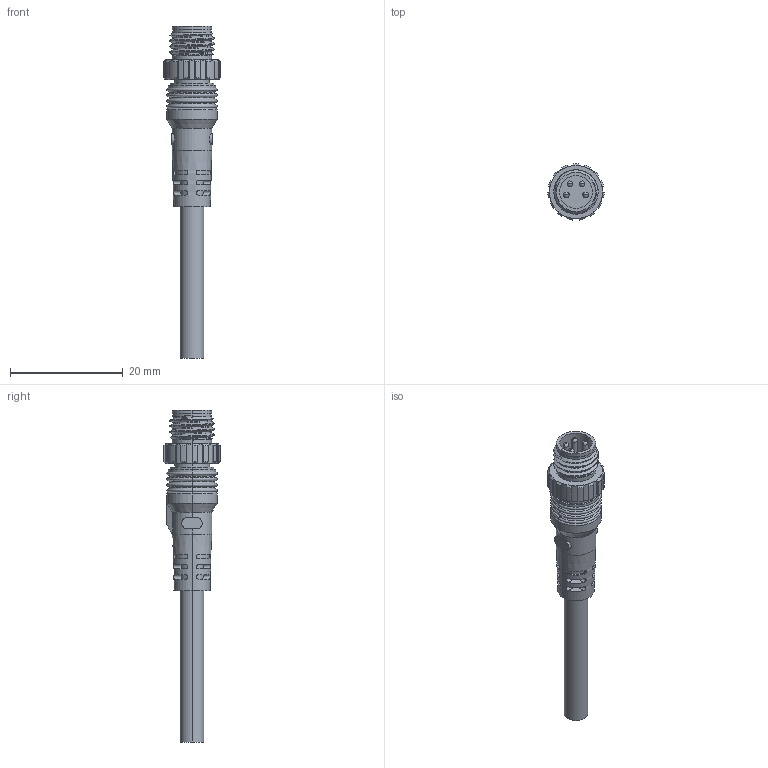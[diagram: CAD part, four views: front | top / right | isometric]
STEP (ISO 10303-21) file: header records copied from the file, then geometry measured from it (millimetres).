
FILE_DESCRIPTION (( 'STEP AP214' ), '1' );
FILE_NAME ('CM08-J4P-XXX.STEP', '2026-02-05T08:09:17', ( '' ), ( '' ), 'SwSTEP 2.0', 'SolidWorks 2024', '' );
FILE_SCHEMA (( 'AUTOMOTIVE_DESIGN' ));
Length unit declared in the file: millimetre
Products named in the file (1): CM08-J4P-XXX
Bounding box: 10 x 9.97 x 58.8 mm (x, y, z)
Volume: 1707.6 mm3; surface area: 1645.6 mm2
Topology: 1 solids, 1 shells, 231 faces, 586 edges, 372 vertices
Faces by surface type: cylinder 108, plane 73, torus 24, cone 15, sphere 8, bspline 3
Entity records: 8006 total; most frequent: CARTESIAN_POINT 2600, ORIENTED_EDGE 1140, DIRECTION 1129, EDGE_CURVE 570, AXIS2_PLACEMENT_3D 473, VERTEX_POINT 364, EDGE_LOOP 254, CIRCLE 244
